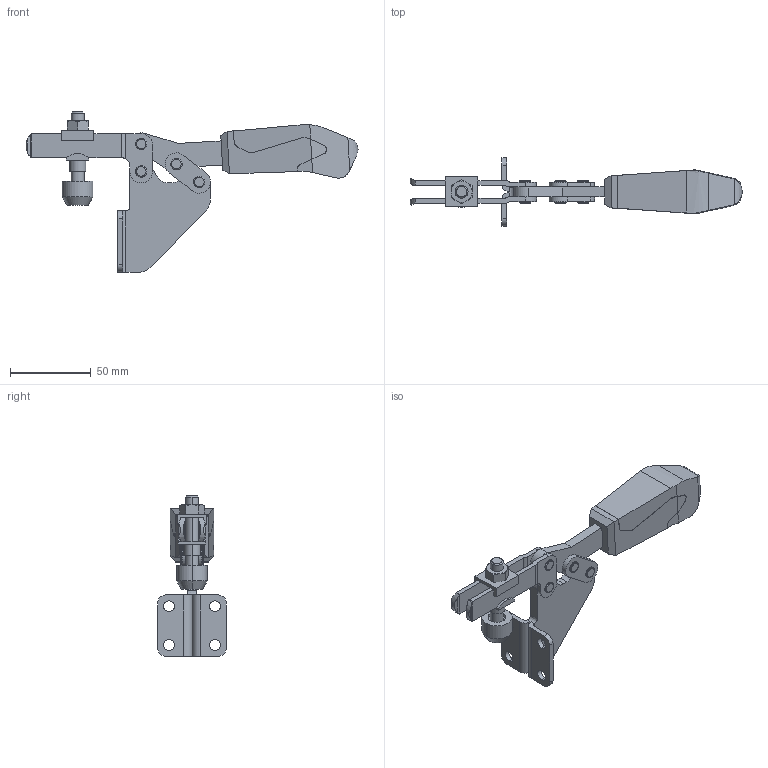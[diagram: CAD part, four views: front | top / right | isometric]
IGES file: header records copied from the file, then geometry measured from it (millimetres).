
Start section: 3D InterOp IGES (v. 2018 1.0.2), Spatial Corp. Copyright (c) 1999-2017.
Global section: file name: HWS_202_3_closed.igs; native system: Spatial Corp.; preprocessor: 3D InterOp GENERIC/IGES 3.0; author: Noname; organization: Noname; date: 20191011.111629; units: metre
Bounding box: 205.99 x 42.5 x 99.5 mm (x, y, z)
Surface area: 36641.1 mm2 (no closed solid volume)
Topology: 0 solids, 0 shells, 293 faces, 1478 edges, 1478 vertices
Faces by surface type: revolution 160, extrusion 133
